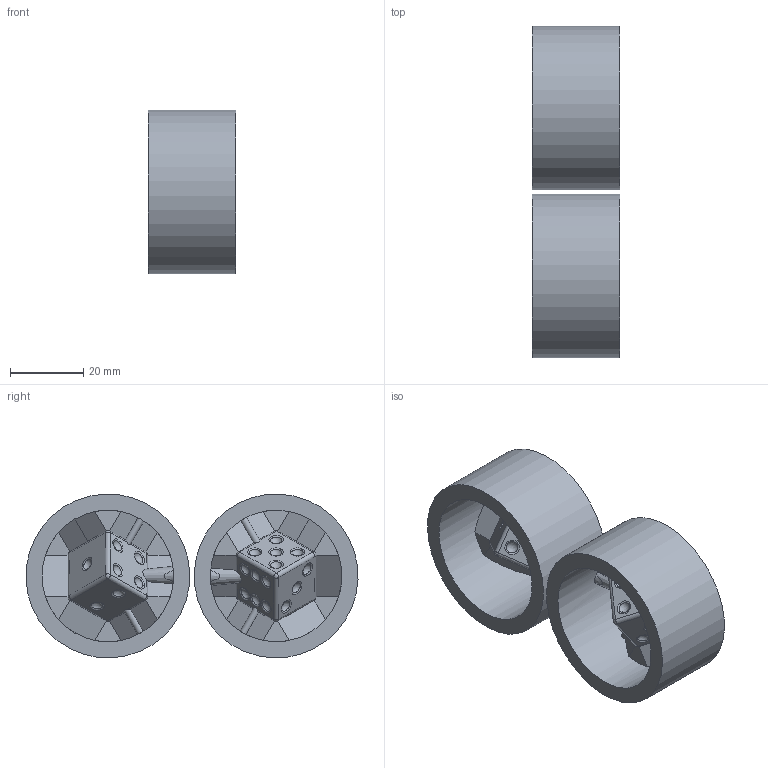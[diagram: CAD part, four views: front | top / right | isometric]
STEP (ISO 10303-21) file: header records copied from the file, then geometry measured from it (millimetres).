
FILE_DESCRIPTION(/* description */ (''),/* implementation_level */ '2;1');
FILE_NAME(/* name */ 'C:/Users/cipri/Desktop/masterdiestep.step',/* time_stamp */ '2018-04-03T14:13:32+02:00',/* author */ ('cipriani49FPP'),/* organization */ (''),/* preprocessor_version */ 'ST-DEVELOPER v16.13',/* originating_system */ 'Autodesk Translation Framework v6.5.0.72',/* authorisation */ '');
FILE_SCHEMA (('AUTOMOTIVE_DESIGN { 1 0 10303 214 3 1 1 }'));
Length unit declared in the file: millimetre
Products named in the file (1): STAMPOFINE30103
Bounding box: 24 x 90.77 x 44.77 mm (x, y, z)
Volume: 45289 mm3; surface area: 17840.6 mm2
Topology: 2 solids, 2 shells, 144 faces, 376 edges, 245 vertices
Faces by surface type: plane 42, sphere 35, cylinder 32, torus 31, cone 2, bspline 2
Full cylindrical faces by diameter (mm): 36 x2, 44.814 x2
Entity records: 4724 total; most frequent: CARTESIAN_POINT 1001, DIRECTION 882, ORIENTED_EDGE 724, AXIS2_PLACEMENT_3D 397, EDGE_CURVE 362, VERTEX_POINT 245, CIRCLE 219, EDGE_LOOP 167
